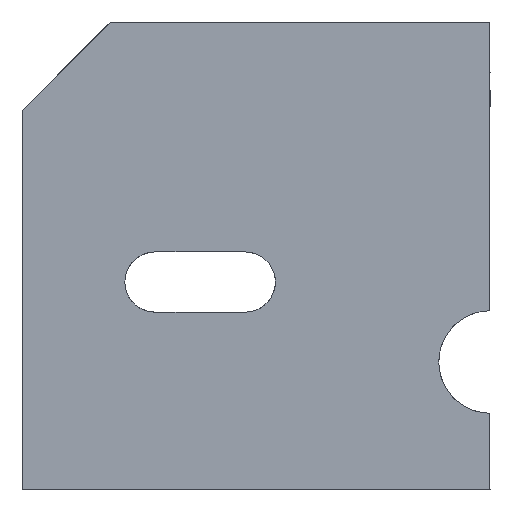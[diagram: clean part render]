
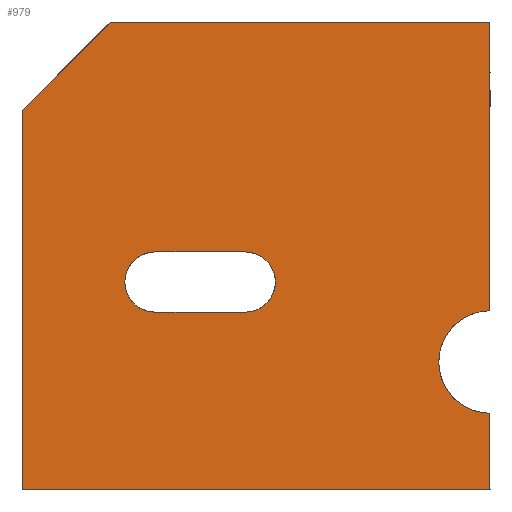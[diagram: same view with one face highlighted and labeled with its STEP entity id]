
A CAD part, left-side view. The second image highlights one B-rep face of the part: STEP entity #979.
In plain terms, the highlighted planar face has unit normal (-1, 0, 0).
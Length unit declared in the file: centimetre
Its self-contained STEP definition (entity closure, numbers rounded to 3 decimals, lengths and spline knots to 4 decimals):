
#18 = VERTEX_POINT ( 'NONE', #855 ) ;
#32 = DIRECTION ( 'NONE',  ( -1., 0., 0. ) ) ;
#57 = VERTEX_POINT ( 'NONE', #135 ) ;
#64 = AXIS2_PLACEMENT_3D ( 'NONE', #250, #859, #615 ) ;
#70 = EDGE_CURVE ( 'NONE', #18, #931, #251, .T. ) ;
#74 = DIRECTION ( 'NONE',  ( 0., 0.707, -0.707 ) ) ;
#88 = VERTEX_POINT ( 'NONE', #379 ) ;
#106 = EDGE_CURVE ( 'NONE', #1458, #1450, #984, .T. ) ;
#120 = ORIENTED_EDGE ( 'NONE', *, *, #1104, .F. ) ;
#135 = CARTESIAN_POINT ( 'NONE',  ( 0., 1000., 811.399 ) ) ;
#146 = DIRECTION ( 'NONE',  ( 0., 0., -1. ) ) ;
#158 = CARTESIAN_POINT ( 'NONE',  ( 0., 522.8951, 508.5744 ) ) ;
#160 = EDGE_CURVE ( 'NONE', #357, #1223, #1281, .T. ) ;
#164 = VERTEX_POINT ( 'NONE', #1328 ) ;
#169 = CARTESIAN_POINT ( 'NONE',  ( 0., 1000., 1000. ) ) ;
#193 = CARTESIAN_POINT ( 'NONE',  ( 0., 0., 1000. ) ) ;
#194 = EDGE_CURVE ( 'NONE', #164, #332, #533, .T. ) ;
#239 = DIRECTION ( 'NONE',  ( 0., -1., 0. ) ) ;
#249 = DIRECTION ( 'NONE',  ( 0., 0., 1. ) ) ;
#250 = CARTESIAN_POINT ( 'NONE',  ( 0., 715.9886, 444.2997 ) ) ;
#251 = LINE ( 'NONE', #730, #1521 ) ;
#265 = PLANE ( 'NONE',  #753 ) ;
#282 = ORIENTED_EDGE ( 'NONE', *, *, #663, .T. ) ;
#297 = CARTESIAN_POINT ( 'NONE',  ( 0., 0., 0. ) ) ;
#332 = VERTEX_POINT ( 'NONE', #1137 ) ;
#352 = LINE ( 'NONE', #885, #1200 ) ;
#357 = VERTEX_POINT ( 'NONE', #998 ) ;
#361 = VECTOR ( 'NONE', #646, 100. ) ;
#370 = DIRECTION ( 'NONE',  ( 1., 0., 0. ) ) ;
#376 = CARTESIAN_POINT ( 'NONE',  ( 0., 715.9886, 508.5744 ) ) ;
#379 = CARTESIAN_POINT ( 'NONE',  ( 0., 0., 382.9595 ) ) ;
#413 = CARTESIAN_POINT ( 'NONE',  ( 0., 0., 1000. ) ) ;
#435 = LINE ( 'NONE', #169, #361 ) ;
#475 = CARTESIAN_POINT ( 'NONE',  ( 0., 0., 273.5054 ) ) ;
#507 = CARTESIAN_POINT ( 'NONE',  ( 0., 522.8951, 444.2997 ) ) ;
#527 = CARTESIAN_POINT ( 'NONE',  ( 0., 811.399, 1000. ) ) ;
#533 = CIRCLE ( 'NONE', #64, 64.2747 ) ;
#542 = CARTESIAN_POINT ( 'NONE',  ( 0., 0., 164.0513 ) ) ;
#553 = ORIENTED_EDGE ( 'NONE', *, *, #727, .F. ) ;
#593 = EDGE_CURVE ( 'NONE', #88, #823, #789, .T. ) ;
#615 = DIRECTION ( 'NONE',  ( 0., 0., -1. ) ) ;
#646 = DIRECTION ( 'NONE',  ( 0., 0., -1. ) ) ;
#663 = EDGE_CURVE ( 'NONE', #57, #18, #435, .T. ) ;
#727 = EDGE_CURVE ( 'NONE', #823, #931, #790, .T. ) ;
#730 = CARTESIAN_POINT ( 'NONE',  ( 0., 1000., 0. ) ) ;
#753 = AXIS2_PLACEMENT_3D ( 'NONE', #977, #370, #1415 ) ;
#764 = ORIENTED_EDGE ( 'NONE', *, *, #1161, .F. ) ;
#776 = EDGE_LOOP ( 'NONE', ( #553, #1170, #1337, #1180, #1186, #282, #1021 ) ) ;
#789 = CIRCLE ( 'NONE', #1487, 109.4541 ) ;
#790 = LINE ( 'NONE', #193, #791 ) ;
#791 = VECTOR ( 'NONE', #1019, 100. ) ;
#795 = CARTESIAN_POINT ( 'NONE',  ( 0., 522.8951, 380.025 ) ) ;
#818 = AXIS2_PLACEMENT_3D ( 'NONE', #507, #32, #146 ) ;
#823 = VERTEX_POINT ( 'NONE', #542 ) ;
#832 = EDGE_CURVE ( 'NONE', #1458, #57, #1134, .T. ) ;
#841 = DIRECTION ( 'NONE',  ( 0., -1., 0. ) ) ;
#843 = VECTOR ( 'NONE', #239, 100. ) ;
#845 = DIRECTION ( 'NONE',  ( -1., 0., 0. ) ) ;
#855 = CARTESIAN_POINT ( 'NONE',  ( 0., 1000., 0. ) ) ;
#859 = DIRECTION ( 'NONE',  ( -1., 0., 0. ) ) ;
#864 = FACE_BOUND ( 'NONE', #1509, .T. ) ;
#885 = CARTESIAN_POINT ( 'NONE',  ( 0., 0., 1000. ) ) ;
#931 = VERTEX_POINT ( 'NONE', #297 ) ;
#933 = VECTOR ( 'NONE', #1141, 100. ) ;
#938 = ORIENTED_EDGE ( 'NONE', *, *, #194, .F. ) ;
#970 = LINE ( 'NONE', #376, #1416 ) ;
#977 = CARTESIAN_POINT ( 'NONE',  ( 0., 1000., 1000. ) ) ;
#979 = ADVANCED_FACE ( 'NONE', ( #864, #1306 ), #265, .F. ) ;
#984 = LINE ( 'NONE', #1304, #843 ) ;
#998 = CARTESIAN_POINT ( 'NONE',  ( 0., 522.8951, 380.025 ) ) ;
#1019 = DIRECTION ( 'NONE',  ( 0., 0., -1. ) ) ;
#1021 = ORIENTED_EDGE ( 'NONE', *, *, #70, .T. ) ;
#1022 = CARTESIAN_POINT ( 'NONE',  ( 0., 811.399, 1000. ) ) ;
#1104 = EDGE_CURVE ( 'NONE', #1223, #164, #970, .T. ) ;
#1134 = LINE ( 'NONE', #1022, #1244 ) ;
#1137 = CARTESIAN_POINT ( 'NONE',  ( 0., 715.9886, 380.025 ) ) ;
#1141 = DIRECTION ( 'NONE',  ( 0., -1., 0. ) ) ;
#1161 = EDGE_CURVE ( 'NONE', #332, #357, #1251, .T. ) ;
#1170 = ORIENTED_EDGE ( 'NONE', *, *, #593, .F. ) ;
#1180 = ORIENTED_EDGE ( 'NONE', *, *, #106, .F. ) ;
#1186 = ORIENTED_EDGE ( 'NONE', *, *, #832, .T. ) ;
#1200 = VECTOR ( 'NONE', #1453, 100. ) ;
#1223 = VERTEX_POINT ( 'NONE', #158 ) ;
#1244 = VECTOR ( 'NONE', #74, 100. ) ;
#1251 = LINE ( 'NONE', #795, #933 ) ;
#1262 = ORIENTED_EDGE ( 'NONE', *, *, #160, .F. ) ;
#1281 = CIRCLE ( 'NONE', #818, 64.2747 ) ;
#1304 = CARTESIAN_POINT ( 'NONE',  ( 0., 1000., 1000. ) ) ;
#1306 = FACE_OUTER_BOUND ( 'NONE', #776, .T. ) ;
#1320 = DIRECTION ( 'NONE',  ( 0., 1., 0. ) ) ;
#1328 = CARTESIAN_POINT ( 'NONE',  ( 0., 715.9886, 508.5744 ) ) ;
#1337 = ORIENTED_EDGE ( 'NONE', *, *, #1439, .F. ) ;
#1415 = DIRECTION ( 'NONE',  ( 0., 0., -1. ) ) ;
#1416 = VECTOR ( 'NONE', #1320, 100. ) ;
#1439 = EDGE_CURVE ( 'NONE', #1450, #88, #352, .T. ) ;
#1450 = VERTEX_POINT ( 'NONE', #413 ) ;
#1453 = DIRECTION ( 'NONE',  ( 0., 0., -1. ) ) ;
#1458 = VERTEX_POINT ( 'NONE', #527 ) ;
#1487 = AXIS2_PLACEMENT_3D ( 'NONE', #475, #845, #249 ) ;
#1509 = EDGE_LOOP ( 'NONE', ( #120, #1262, #764, #938 ) ) ;
#1521 = VECTOR ( 'NONE', #841, 100. ) ;
